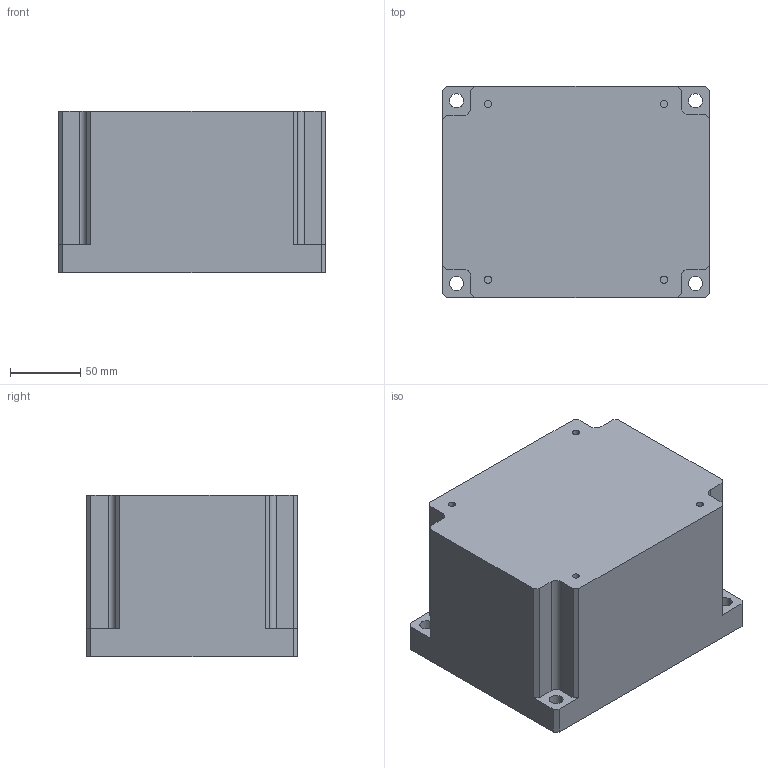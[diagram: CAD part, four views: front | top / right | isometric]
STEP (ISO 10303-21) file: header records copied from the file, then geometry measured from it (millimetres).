
FILE_DESCRIPTION(('CATIA V5 STEP Exchange'),'2;1');
FILE_NAME('D:\姚明阳\1、工装图纸\AG105\AG105.16_V1.stp','2024-04-30T05:12:41+00:00',('none'),('none'),'CATIA Version 5 Release 21 GA (IN-10)','CATIA V5 STEP AP214','none');
FILE_SCHEMA(('AUTOMOTIVE_DESIGN { 1 0 10303 214 1 1 1 1 }'));
Length unit declared in the file: millimetre
Products named in the file (1): Part34
Bounding box: 190 x 150 x 115 mm (x, y, z)
Volume: 3114506.1 mm3; surface area: 136064.2 mm2
Topology: 1 solids, 1 shells, 54 faces, 144 edges, 96 vertices
Faces by surface type: plane 34, cylinder 20
Entity records: 1612 total; most frequent: ORIENTED_EDGE 288, CARTESIAN_POINT 285, DIRECTION 220, EDGE_CURVE 144, VECTOR 100, LINE 100, VERTEX_POINT 96, AXIS2_PLACEMENT_3D 81
